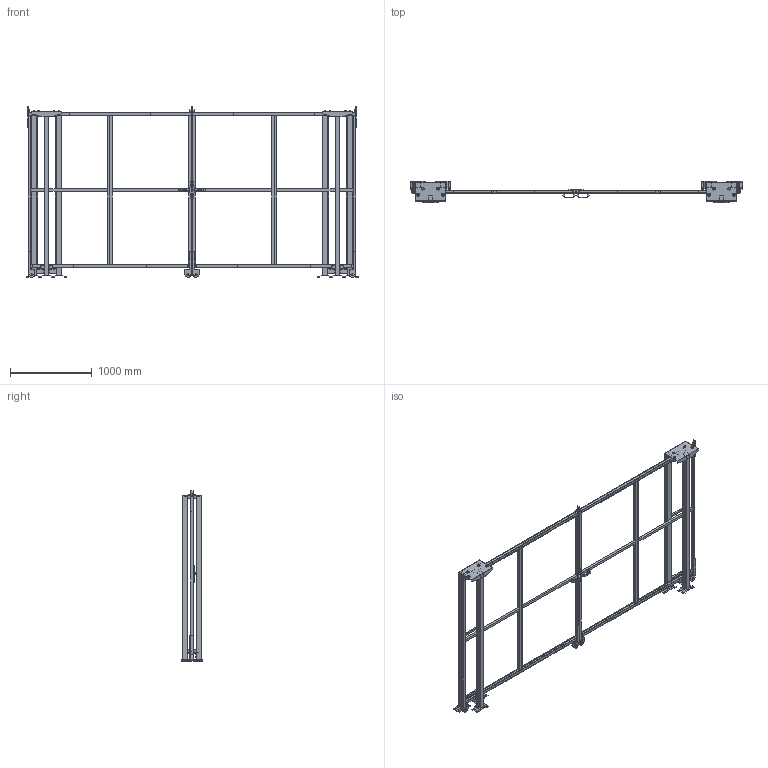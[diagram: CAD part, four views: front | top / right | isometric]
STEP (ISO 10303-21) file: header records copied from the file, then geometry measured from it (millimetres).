
FILE_DESCRIPTION(/* description */ (''),/* implementation_level */ '2;1');
FILE_NAME(/* name */ 'C:\SafeGuarding\ELABORATI\KLADKA2KR_2025-03-25-09-53-25.stp',/* time_stamp */ '2025-03-25T09:53:28+01:00',/* author */ ('admin'),/* organization */ (''),/* preprocessor_version */ 'ST-DEVELOPER v18.1',/* originating_system */ 'AutoCAD Mechanical',/* authorisation */ '');
FILE_SCHEMA (('AUTOMOTIVE_DESIGN { 1 0 10303 214 3 1 1 }'));
Length unit declared in the file: millimetre
Products named in the file (4): Product; R_VFPA.REPE30.10001900; R_VFPA.REPE20.02501900; P_VFMA.V260SDU.2020
Assembly tree (12 placements, depth 2):
  Product
    R_VFPA.REPE30.10001900  x4
    R_VFPA.REPE20.02501900  x2
    P_VFMA.V260SDU.2020  x6
Bounding box: 4071.92 x 264.01 x 2090.02 mm (x, y, z)
Volume: 77348353.5 mm3; surface area: 11300047.5 mm2
Topology: 108 solids, 130 shells, 946 faces, 2940 edges, 3026 vertices
Faces by surface type: plane 870, cylinder 76
Full cylindrical faces by diameter (mm): 9 x8, 11 x24, 13 x8, 14 x4, 30 x12, 36 x16, 80 x4
Entity records: 22593 total; most frequent: CARTESIAN_POINT 4744, DIRECTION 3450, ORIENTED_EDGE 3252, EDGE_CURVE 1724, LINE 1570, VECTOR 1570, VERTEX_POINT 1228, AXIS2_PLACEMENT_3D 940
